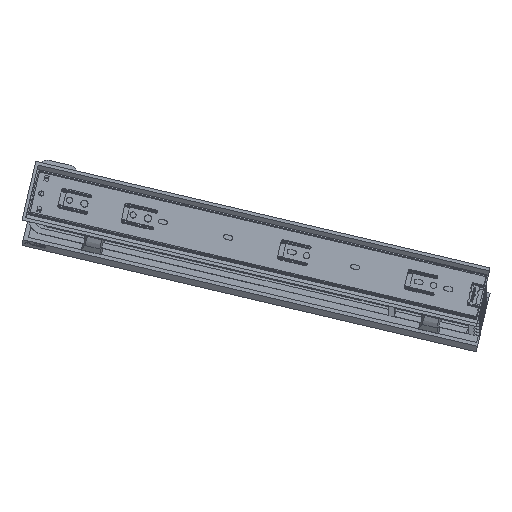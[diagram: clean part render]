
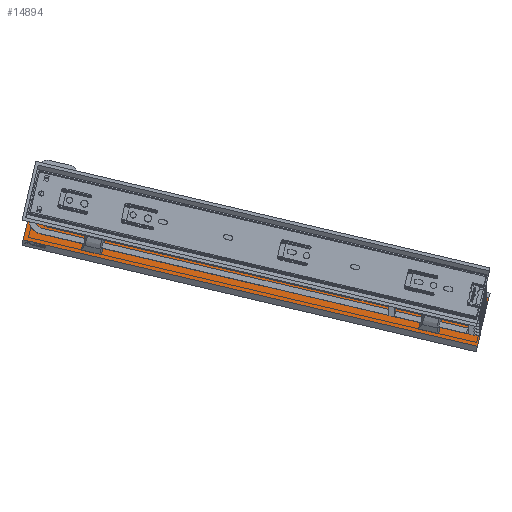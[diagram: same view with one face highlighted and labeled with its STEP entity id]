
A CAD part, top view. The second image highlights one B-rep face of the part: STEP entity #14894.
In plain terms, the highlighted planar face has unit normal (0, 0.043, 0.999) as drawn and (1, 0, 0) by its records, which use the part's own axes.
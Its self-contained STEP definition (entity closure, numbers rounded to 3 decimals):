
#419=FACE_BOUND('',#2057,.T.);
#420=FACE_BOUND('',#2058,.T.);
#738=PLANE('',#15929);
#1301=FACE_OUTER_BOUND('',#2056,.T.);
#2056=EDGE_LOOP('',(#11900,#11901,#11902,#11903));
#2057=EDGE_LOOP('',(#11904));
#2058=EDGE_LOOP('',(#11905,#11906,#11907,#11908));
#2656=CIRCLE('',#15920,2.15);
#2657=CIRCLE('',#15922,2.15);
#2658=CIRCLE('',#15925,2.15);
#3758=LINE('',#22508,#5478);
#3764=LINE('',#22517,#5484);
#3769=LINE('',#22532,#5489);
#3772=LINE('',#22539,#5492);
#3774=LINE('',#22544,#5494);
#3775=LINE('',#22546,#5495);
#5478=VECTOR('',#18172,10.);
#5484=VECTOR('',#18182,10.);
#5489=VECTOR('',#18199,10.);
#5492=VECTOR('',#18208,10.);
#5494=VECTOR('',#18214,10.);
#5495=VECTOR('',#18217,10.);
#6975=VERTEX_POINT('',#22505);
#6976=VERTEX_POINT('',#22507);
#6977=VERTEX_POINT('',#22515);
#6978=VERTEX_POINT('',#22521);
#6979=VERTEX_POINT('',#22525);
#6980=VERTEX_POINT('',#22527);
#6981=VERTEX_POINT('',#22531);
#6982=VERTEX_POINT('',#22535);
#6983=VERTEX_POINT('',#22542);
#8745=EDGE_CURVE('',#6975,#6976,#3758,.T.);
#8751=EDGE_CURVE('',#6977,#6975,#3764,.T.);
#8753=EDGE_CURVE('',#6978,#6978,#2656,.T.);
#8756=EDGE_CURVE('',#6980,#6979,#2657,.T.);
#8758=EDGE_CURVE('',#6981,#6980,#3769,.T.);
#8760=EDGE_CURVE('',#6982,#6981,#2658,.T.);
#8762=EDGE_CURVE('',#6979,#6982,#3772,.T.);
#8764=EDGE_CURVE('',#6977,#6983,#3774,.T.);
#8765=EDGE_CURVE('',#6976,#6983,#3775,.T.);
#11900=ORIENTED_EDGE('',*,*,#8751,.F.);
#11901=ORIENTED_EDGE('',*,*,#8764,.T.);
#11902=ORIENTED_EDGE('',*,*,#8765,.F.);
#11903=ORIENTED_EDGE('',*,*,#8745,.F.);
#11904=ORIENTED_EDGE('',*,*,#8753,.T.);
#11905=ORIENTED_EDGE('',*,*,#8760,.T.);
#11906=ORIENTED_EDGE('',*,*,#8758,.T.);
#11907=ORIENTED_EDGE('',*,*,#8756,.T.);
#11908=ORIENTED_EDGE('',*,*,#8762,.T.);
#14894=ADVANCED_FACE('',(#1301,#419,#420),#738,.T.);
#15920=AXIS2_PLACEMENT_3D('',#22522,#18188,#18189);
#15922=AXIS2_PLACEMENT_3D('',#22528,#18194,#18195);
#15925=AXIS2_PLACEMENT_3D('',#22536,#18203,#18204);
#15929=AXIS2_PLACEMENT_3D('',#22545,#18215,#18216);
#18172=DIRECTION('',(0.,0.,1.));
#18182=DIRECTION('',(0.,-1.,0.));
#18188=DIRECTION('center_axis',(-1.,0.,0.));
#18189=DIRECTION('ref_axis',(0.,0.,
1.));
#18194=DIRECTION('center_axis',(-1.,0.,0.));
#18195=DIRECTION('ref_axis',(0.,1.,0.));
#18199=DIRECTION('',(0.,0.,-1.));
#18203=DIRECTION('center_axis',(-1.,0.,0.));
#18204=DIRECTION('ref_axis',(0.,-1.,0.));
#18208=DIRECTION('',(0.,0.,1.));
#18214=DIRECTION('',(0.,0.,1.));
#18215=DIRECTION('center_axis',(1.,0.,0.));
#18216=DIRECTION('ref_axis',(0.,1.,0.));
#18217=DIRECTION('',(0.,1.,0.));
#22505=CARTESIAN_POINT('',(3.486,-45.761,0.));
#22507=CARTESIAN_POINT('',(3.486,-45.761,458.));
#22508=CARTESIAN_POINT('',(3.486,-45.761,0.));
#22515=CARTESIAN_POINT('',(3.486,3.633,0.));
#22517=CARTESIAN_POINT('',(3.486,3.633,0.));
#22521=CARTESIAN_POINT('',(3.486,-21.065,387.85));
#22522=CARTESIAN_POINT('Origin',(3.486,-21.065,390.));
#22525=CARTESIAN_POINT('',(3.486,-23.228,45.));
#22527=CARTESIAN_POINT('',(3.486,-18.928,45.));
#22528=CARTESIAN_POINT('Origin',(3.486,-21.078,45.));
#22531=CARTESIAN_POINT('',(3.486,-18.928,73.));
#22532=CARTESIAN_POINT('',(3.486,-18.928,36.5));
#22535=CARTESIAN_POINT('',(3.486,-23.228,73.));
#22536=CARTESIAN_POINT('Origin',(3.486,-21.078,73.));
#22539=CARTESIAN_POINT('',(3.486,-23.228,22.5));
#22542=CARTESIAN_POINT('',(3.486,3.633,458.));
#22544=CARTESIAN_POINT('',(3.486,3.633,0.));
#22545=CARTESIAN_POINT('Origin',(3.486,-21.064,0.));
#22546=CARTESIAN_POINT('',(3.486,-21.064,458.));
